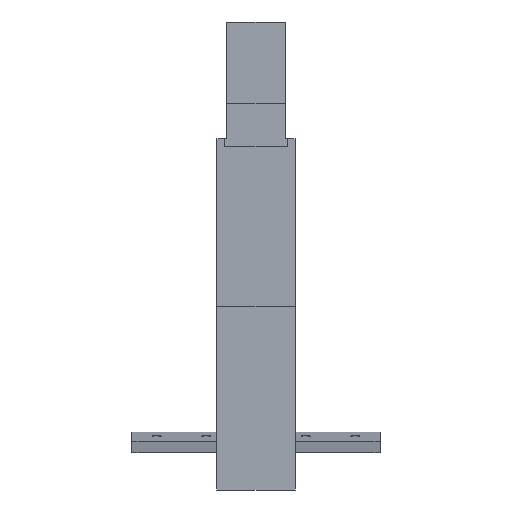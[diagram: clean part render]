
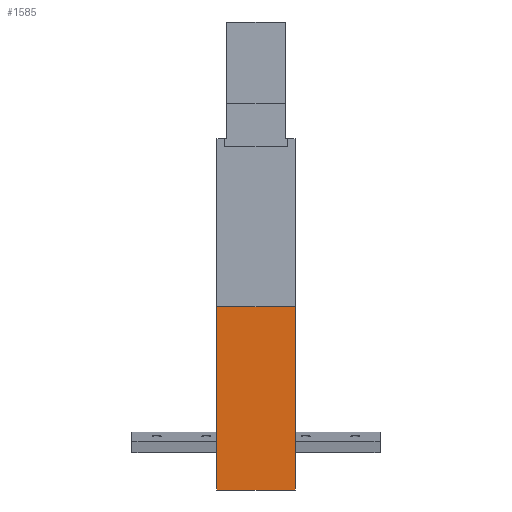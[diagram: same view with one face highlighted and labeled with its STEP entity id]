
A CAD part, left-side view. The second image highlights one B-rep face of the part: STEP entity #1585.
In plain terms, the highlighted planar face has unit normal (-1, 0, 0).
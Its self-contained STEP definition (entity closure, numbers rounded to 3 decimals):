
#125 = PLANE('',#126);
#126 = AXIS2_PLACEMENT_3D('',#127,#128,#129);
#127 = CARTESIAN_POINT('',(-18.088,14.2,-161.762));
#128 = DIRECTION('',(-0.,-1.,-0.));
#129 = DIRECTION('',(0.,0.,-1.));
#262 = PLANE('',#263);
#263 = AXIS2_PLACEMENT_3D('',#264,#265,#266);
#264 = CARTESIAN_POINT('',(-18.088,54.2,-161.762));
#265 = DIRECTION('',(-0.,-1.,-0.));
#266 = DIRECTION('',(0.,0.,-1.));
#498 = EDGE_CURVE('',#499,#501,#503,.T.);
#499 = VERTEX_POINT('',#500);
#500 = CARTESIAN_POINT('',(-34.,14.2,-112.));
#501 = VERTEX_POINT('',#502);
#502 = CARTESIAN_POINT('',(-34.,14.2,-205.873));
#503 = SURFACE_CURVE('',#504,(#508,#515),.PCURVE_S1.);
#504 = LINE('',#505,#506);
#505 = CARTESIAN_POINT('',(-34.,14.2,-112.));
#506 = VECTOR('',#507,1.);
#507 = DIRECTION('',(0.,0.,-1.));
#508 = PCURVE('',#125,#509);
#509 = DEFINITIONAL_REPRESENTATION('',(#510),#514);
#510 = LINE('',#511,#512);
#511 = CARTESIAN_POINT('',(-49.762,-15.912));
#512 = VECTOR('',#513,1.);
#513 = DIRECTION('',(1.,0.));
#514 = ( GEOMETRIC_REPRESENTATION_CONTEXT(2) 
PARAMETRIC_REPRESENTATION_CONTEXT() REPRESENTATION_CONTEXT('2D SPACE',''
  ) );
#515 = PCURVE('',#516,#521);
#516 = PLANE('',#517);
#517 = AXIS2_PLACEMENT_3D('',#518,#519,#520);
#518 = CARTESIAN_POINT('',(-34.,54.2,-112.));
#519 = DIRECTION('',(1.,0.,0.));
#520 = DIRECTION('',(0.,0.,-1.));
#521 = DEFINITIONAL_REPRESENTATION('',(#522),#526);
#522 = LINE('',#523,#524);
#523 = CARTESIAN_POINT('',(0.,-40.));
#524 = VECTOR('',#525,1.);
#525 = DIRECTION('',(1.,0.));
#526 = ( GEOMETRIC_REPRESENTATION_CONTEXT(2) 
PARAMETRIC_REPRESENTATION_CONTEXT() REPRESENTATION_CONTEXT('2D SPACE',''
  ) );
#544 = PLANE('',#545);
#545 = AXIS2_PLACEMENT_3D('',#546,#547,#548);
#546 = CARTESIAN_POINT('',(-34.,54.2,-205.873));
#547 = DIRECTION('',(-0.026,0.,1.));
#548 = DIRECTION('',(1.,0.,0.026));
#782 = PLANE('',#783);
#783 = AXIS2_PLACEMENT_3D('',#784,#785,#786);
#784 = CARTESIAN_POINT('',(-40.,14.2,-112.));
#785 = DIRECTION('',(0.,0.,1.));
#786 = DIRECTION('',(1.,0.,0.));
#1212 = EDGE_CURVE('',#1213,#1215,#1217,.T.);
#1213 = VERTEX_POINT('',#1214);
#1214 = CARTESIAN_POINT('',(-34.,54.2,-112.));
#1215 = VERTEX_POINT('',#1216);
#1216 = CARTESIAN_POINT('',(-34.,54.2,-205.873));
#1217 = SURFACE_CURVE('',#1218,(#1222,#1229),.PCURVE_S1.);
#1218 = LINE('',#1219,#1220);
#1219 = CARTESIAN_POINT('',(-34.,54.2,-112.));
#1220 = VECTOR('',#1221,1.);
#1221 = DIRECTION('',(0.,0.,-1.));
#1222 = PCURVE('',#262,#1223);
#1223 = DEFINITIONAL_REPRESENTATION('',(#1224),#1228);
#1224 = LINE('',#1225,#1226);
#1225 = CARTESIAN_POINT('',(-49.762,-15.912));
#1226 = VECTOR('',#1227,1.);
#1227 = DIRECTION('',(1.,0.));
#1228 = ( GEOMETRIC_REPRESENTATION_CONTEXT(2) 
PARAMETRIC_REPRESENTATION_CONTEXT() REPRESENTATION_CONTEXT('2D SPACE',''
  ) );
#1229 = PCURVE('',#516,#1230);
#1230 = DEFINITIONAL_REPRESENTATION('',(#1231),#1235);
#1231 = LINE('',#1232,#1233);
#1232 = CARTESIAN_POINT('',(0.,0.));
#1233 = VECTOR('',#1234,1.);
#1234 = DIRECTION('',(1.,0.));
#1235 = ( GEOMETRIC_REPRESENTATION_CONTEXT(2) 
PARAMETRIC_REPRESENTATION_CONTEXT() REPRESENTATION_CONTEXT('2D SPACE',''
  ) );
#1585 = ADVANCED_FACE('',(#1586),#516,.F.);
#1586 = FACE_BOUND('',#1587,.F.);
#1587 = EDGE_LOOP('',(#1588,#1609,#1610,#1631));
#1588 = ORIENTED_EDGE('',*,*,#1589,.T.);
#1589 = EDGE_CURVE('',#1213,#499,#1590,.T.);
#1590 = SURFACE_CURVE('',#1591,(#1595,#1602),.PCURVE_S1.);
#1591 = LINE('',#1592,#1593);
#1592 = CARTESIAN_POINT('',(-34.,54.2,-112.));
#1593 = VECTOR('',#1594,1.);
#1594 = DIRECTION('',(0.,-1.,0.));
#1595 = PCURVE('',#516,#1596);
#1596 = DEFINITIONAL_REPRESENTATION('',(#1597),#1601);
#1597 = LINE('',#1598,#1599);
#1598 = CARTESIAN_POINT('',(0.,0.));
#1599 = VECTOR('',#1600,1.);
#1600 = DIRECTION('',(0.,-1.));
#1601 = ( GEOMETRIC_REPRESENTATION_CONTEXT(2) 
PARAMETRIC_REPRESENTATION_CONTEXT() REPRESENTATION_CONTEXT('2D SPACE',''
  ) );
#1602 = PCURVE('',#782,#1603);
#1603 = DEFINITIONAL_REPRESENTATION('',(#1604),#1608);
#1604 = LINE('',#1605,#1606);
#1605 = CARTESIAN_POINT('',(6.,40.));
#1606 = VECTOR('',#1607,1.);
#1607 = DIRECTION('',(0.,-1.));
#1608 = ( GEOMETRIC_REPRESENTATION_CONTEXT(2) 
PARAMETRIC_REPRESENTATION_CONTEXT() REPRESENTATION_CONTEXT('2D SPACE',''
  ) );
#1609 = ORIENTED_EDGE('',*,*,#498,.T.);
#1610 = ORIENTED_EDGE('',*,*,#1611,.F.);
#1611 = EDGE_CURVE('',#1215,#501,#1612,.T.);
#1612 = SURFACE_CURVE('',#1613,(#1617,#1624),.PCURVE_S1.);
#1613 = LINE('',#1614,#1615);
#1614 = CARTESIAN_POINT('',(-34.,54.2,-205.873));
#1615 = VECTOR('',#1616,1.);
#1616 = DIRECTION('',(0.,-1.,0.));
#1617 = PCURVE('',#516,#1618);
#1618 = DEFINITIONAL_REPRESENTATION('',(#1619),#1623);
#1619 = LINE('',#1620,#1621);
#1620 = CARTESIAN_POINT('',(93.873,0.));
#1621 = VECTOR('',#1622,1.);
#1622 = DIRECTION('',(0.,-1.));
#1623 = ( GEOMETRIC_REPRESENTATION_CONTEXT(2) 
PARAMETRIC_REPRESENTATION_CONTEXT() REPRESENTATION_CONTEXT('2D SPACE',''
  ) );
#1624 = PCURVE('',#544,#1625);
#1625 = DEFINITIONAL_REPRESENTATION('',(#1626),#1630);
#1626 = LINE('',#1627,#1628);
#1627 = CARTESIAN_POINT('',(0.,0.));
#1628 = VECTOR('',#1629,1.);
#1629 = DIRECTION('',(0.,-1.));
#1630 = ( GEOMETRIC_REPRESENTATION_CONTEXT(2) 
PARAMETRIC_REPRESENTATION_CONTEXT() REPRESENTATION_CONTEXT('2D SPACE',''
  ) );
#1631 = ORIENTED_EDGE('',*,*,#1212,.F.);
